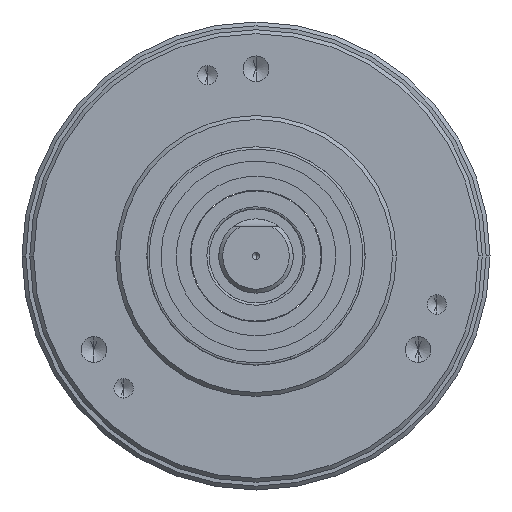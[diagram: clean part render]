
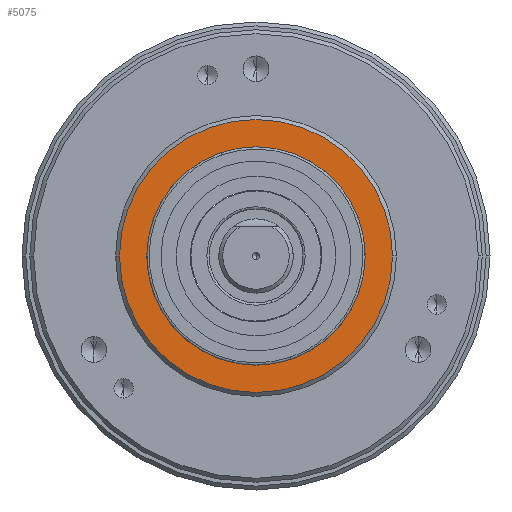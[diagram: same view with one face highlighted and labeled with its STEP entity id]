
A CAD part, front view. The second image highlights one B-rep face of the part: STEP entity #5075.
In plain terms, the highlighted planar face has unit normal (0, -1, 0).
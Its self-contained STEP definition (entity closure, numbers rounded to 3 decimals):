
#36 = VERTEX_POINT ( 'NONE', #4101 ) ;
#381 = ORIENTED_EDGE ( 'NONE', *, *, #7089, .T. ) ;
#551 = EDGE_CURVE ( 'NONE', #36, #8239, #5602, .T. ) ;
#642 = EDGE_CURVE ( 'NONE', #8239, #36, #4987, .T. ) ;
#808 = EDGE_LOOP ( 'NONE', ( #3904, #3471 ) ) ;
#1194 = VERTEX_POINT ( 'NONE', #7383 ) ;
#1800 = CARTESIAN_POINT ( 'NONE',  ( 0., 0., 0. ) ) ;
#2118 = ORIENTED_EDGE ( 'NONE', *, *, #5718, .T. ) ;
#2529 = CIRCLE ( 'NONE', #10133, 17.5 ) ;
#2556 = PLANE ( 'NONE',  #7849 ) ;
#2639 = DIRECTION ( 'NONE',  ( 1., 0., 0. ) ) ;
#2756 = VERTEX_POINT ( 'NONE', #3811 ) ;
#3423 = FACE_BOUND ( 'NONE', #808, .T. ) ;
#3471 = ORIENTED_EDGE ( 'NONE', *, *, #551, .F. ) ;
#3577 = DIRECTION ( 'NONE',  ( 0., -1., 0. ) ) ;
#3644 = CARTESIAN_POINT ( 'NONE',  ( 0., 0., 0. ) ) ;
#3811 = CARTESIAN_POINT ( 'NONE',  ( 17.5, 0., 0. ) ) ;
#3904 = ORIENTED_EDGE ( 'NONE', *, *, #642, .F. ) ;
#4101 = CARTESIAN_POINT ( 'NONE',  ( -14., 0., 0. ) ) ;
#4212 = CARTESIAN_POINT ( 'NONE',  ( 0., 0., 0. ) ) ;
#4412 = AXIS2_PLACEMENT_3D ( 'NONE', #7654, #6875, #8442 ) ;
#4682 = EDGE_LOOP ( 'NONE', ( #381, #2118 ) ) ;
#4987 = CIRCLE ( 'NONE', #7394, 14. ) ;
#5075 = ADVANCED_FACE ( 'NONE', ( #8907, #3423 ), #2556, .T. ) ;
#5385 = DIRECTION ( 'NONE',  ( 0., -1., 0. ) ) ;
#5602 = CIRCLE ( 'NONE', #6118, 14. ) ;
#5718 = EDGE_CURVE ( 'NONE', #2756, #1194, #2529, .T. ) ;
#5811 = DIRECTION ( 'NONE',  ( 0., -1., 0. ) ) ;
#6118 = AXIS2_PLACEMENT_3D ( 'NONE', #10153, #5385, #8636 ) ;
#6875 = DIRECTION ( 'NONE',  ( 0., -1., 0. ) ) ;
#7089 = EDGE_CURVE ( 'NONE', #1194, #2756, #8933, .T. ) ;
#7383 = CARTESIAN_POINT ( 'NONE',  ( -17.5, 0., 0. ) ) ;
#7394 = AXIS2_PLACEMENT_3D ( 'NONE', #4212, #5811, #2639 ) ;
#7648 = DIRECTION ( 'NONE',  ( 1., 0., 0. ) ) ;
#7654 = CARTESIAN_POINT ( 'NONE',  ( 0., 0., 0. ) ) ;
#7668 = CARTESIAN_POINT ( 'NONE',  ( 14., 0., 0. ) ) ;
#7849 = AXIS2_PLACEMENT_3D ( 'NONE', #1800, #8115, #8924 ) ;
#8115 = DIRECTION ( 'NONE',  ( 0., -1., 0. ) ) ;
#8239 = VERTEX_POINT ( 'NONE', #7668 ) ;
#8442 = DIRECTION ( 'NONE',  ( 1., 0., 0. ) ) ;
#8636 = DIRECTION ( 'NONE',  ( 1., 0., 0. ) ) ;
#8907 = FACE_OUTER_BOUND ( 'NONE', #4682, .T. ) ;
#8924 = DIRECTION ( 'NONE',  ( 1., 0., 0. ) ) ;
#8933 = CIRCLE ( 'NONE', #4412, 17.5 ) ;
#10133 = AXIS2_PLACEMENT_3D ( 'NONE', #3644, #3577, #7648 ) ;
#10153 = CARTESIAN_POINT ( 'NONE',  ( 0., 0., 0. ) ) ;
